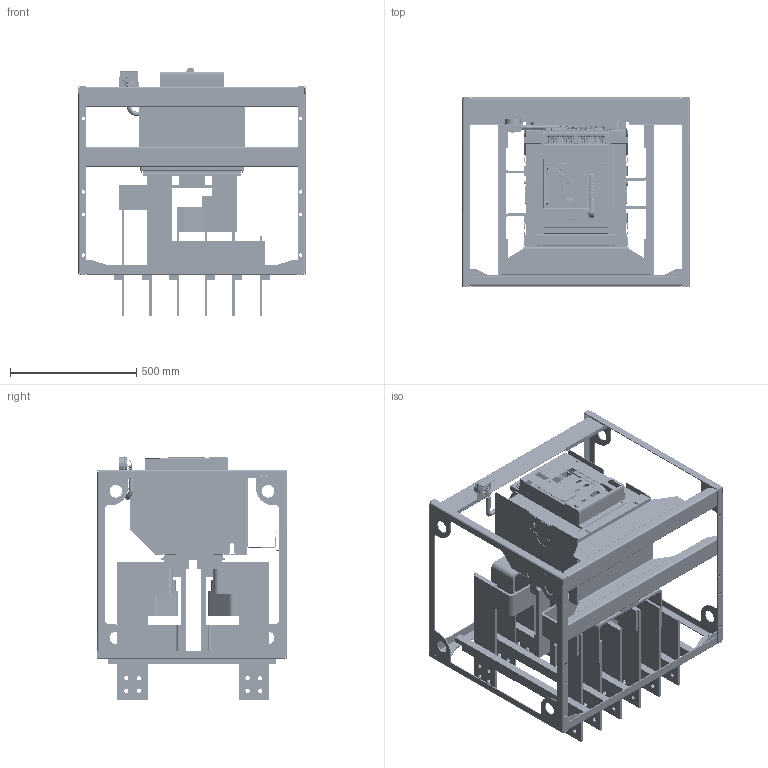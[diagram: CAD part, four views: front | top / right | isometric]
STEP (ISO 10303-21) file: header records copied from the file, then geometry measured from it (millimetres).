
FILE_DESCRIPTION (( 'STEP AP214' ), '1' );
FILE_NAME ('Ýëåêòðîí Ý40Â Ïðî (ôàç. ABC-CBA)_defeature.STEP', '2022-06-07T04:22:39', ( '' ), ( '' ), 'SwSTEP 2.0', 'SolidWorks 2018', '' );
FILE_SCHEMA (( 'AUTOMOTIVE_DESIGN' ));
Length unit declared in the file: millimetre
Products named in the file (1): Ýëåêòðîí Ý40Â Ïðî (ôàç. ABC-CBA)_defeature
Bounding box: 900 x 750.01 x 979.37 mm (x, y, z)
Surface area: 10419257 mm2 (no closed solid volume)
Topology: 0 solids, 200 shells, 30125 faces, 85344 edges, 55094 vertices
Faces by surface type: plane 18359, cylinder 6191, bspline 4054, cone 662, torus 436, sphere 423
Full cylindrical faces by diameter (mm): 2.05 x29, 2.4 x14, 4 x29, 4.8 x1, 6.831 x1, 8.5 x2, 8.653 x1, 10.16 x1, 10.5 x2, 11.52 x1, 12.5 x4, 12.736 x1, 13.022 x1, 13.576 x6, 14 x16, 17 x48, 17.902 x1, 18.902 x1, 50 x8
Entity records: 1117511 total; most frequent: CARTESIAN_POINT 307159, ORIENTED_EDGE 166652, DIRECTION 133513, EDGE_CURVE 83639, LINE 56719, VECTOR 56719, VERTEX_POINT 54468, AXIS2_PLACEMENT_3D 38397
